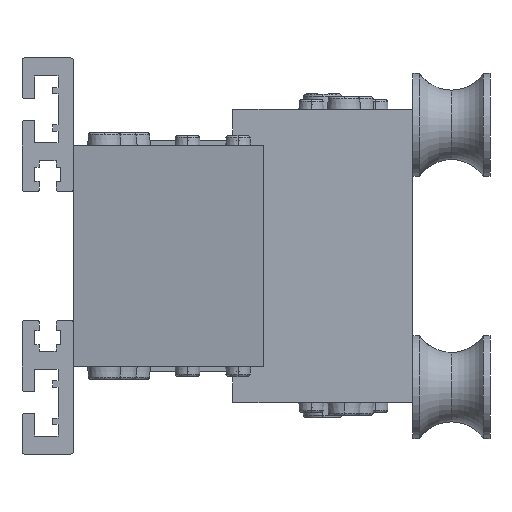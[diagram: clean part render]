
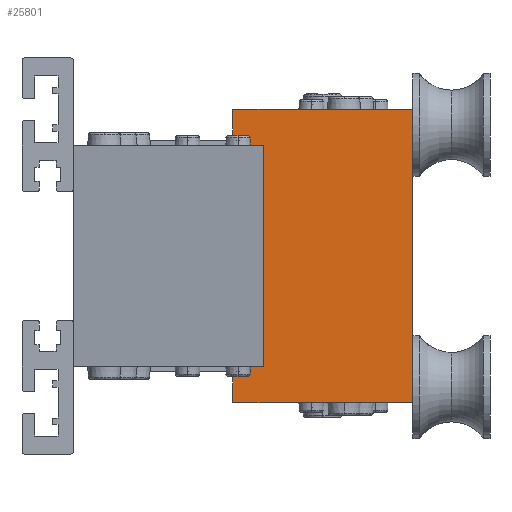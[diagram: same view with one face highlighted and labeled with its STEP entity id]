
A CAD part, left-side view. The second image highlights one B-rep face of the part: STEP entity #25801.
In plain terms, the highlighted planar face has unit normal (-1, 0, 0).
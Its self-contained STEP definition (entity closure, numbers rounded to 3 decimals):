
#170 = VERTEX_POINT ( 'NONE', #21769 ) ;
#705 = DIRECTION ( 'NONE',  ( 0., 0., 1. ) ) ;
#811 = EDGE_CURVE ( 'NONE', #4496, #170, #27254, .T. ) ;
#815 = ORIENTED_EDGE ( 'NONE', *, *, #811, .F. ) ;
#2150 = CARTESIAN_POINT ( 'NONE',  ( -222.632, -15.563, 743. ) ) ;
#2588 = CARTESIAN_POINT ( 'NONE',  ( -222.632, 54.437, 843. ) ) ;
#3593 = VECTOR ( 'NONE', #11022, 1000. ) ;
#3814 = VECTOR ( 'NONE', #16012, 1000. ) ;
#3938 = CARTESIAN_POINT ( 'NONE',  ( -222.632, 54.437, 1310.296 ) ) ;
#4060 = DIRECTION ( 'NONE',  ( 1., 0., 0. ) ) ;
#4073 = EDGE_CURVE ( 'NONE', #6712, #4496, #24916, .T. ) ;
#4402 = DIRECTION ( 'NONE',  ( 0., 0., 1. ) ) ;
#4496 = VERTEX_POINT ( 'NONE', #8059 ) ;
#5036 = VECTOR ( 'NONE', #27706, 1000. ) ;
#5133 = VECTOR ( 'NONE', #4402, 1000. ) ;
#5147 = ORIENTED_EDGE ( 'NONE', *, *, #25605, .F. ) ;
#5737 = CARTESIAN_POINT ( 'NONE',  ( -222.632, 54.437, 743. ) ) ;
#6240 = PLANE ( 'NONE',  #28777 ) ;
#6387 = CARTESIAN_POINT ( 'NONE',  ( -222.632, 54.437, 1310.296 ) ) ;
#6712 = VERTEX_POINT ( 'NONE', #5737 ) ;
#6914 = VERTEX_POINT ( 'NONE', #2150 ) ;
#6972 = EDGE_CURVE ( 'NONE', #170, #9414, #16659, .T. ) ;
#7046 = CARTESIAN_POINT ( 'NONE',  ( -222.632, -15.563, 857. ) ) ;
#7397 = ORIENTED_EDGE ( 'NONE', *, *, #13734, .F. ) ;
#7797 = CARTESIAN_POINT ( 'NONE',  ( -222.632, 19.437, 743. ) ) ;
#8059 = CARTESIAN_POINT ( 'NONE',  ( -222.632, 54.437, 757. ) ) ;
#8064 = VECTOR ( 'NONE', #705, 1000. ) ;
#8493 = CARTESIAN_POINT ( 'NONE',  ( -222.632, 54.437, 857. ) ) ;
#9414 = VERTEX_POINT ( 'NONE', #30338 ) ;
#10250 = DIRECTION ( 'NONE',  ( 0., -1., 0. ) ) ;
#10393 = CARTESIAN_POINT ( 'NONE',  ( -222.632, 54.437, 1310.296 ) ) ;
#10704 = DIRECTION ( 'NONE',  ( 0., 1., 0. ) ) ;
#11022 = DIRECTION ( 'NONE',  ( 0., 0., 1. ) ) ;
#11870 = DIRECTION ( 'NONE',  ( 0., 0., 1. ) ) ;
#13734 = EDGE_CURVE ( 'NONE', #9414, #29861, #21245, .T. ) ;
#13810 = LINE ( 'NONE', #23674, #23845 ) ;
#14658 = CARTESIAN_POINT ( 'NONE',  ( -222.632, 42.437, 1310.296 ) ) ;
#16012 = DIRECTION ( 'NONE',  ( 0., 1., 0. ) ) ;
#16250 = CARTESIAN_POINT ( 'NONE',  ( -222.632, 54.437, 843. ) ) ;
#16571 = ORIENTED_EDGE ( 'NONE', *, *, #22278, .F. ) ;
#16659 = LINE ( 'NONE', #14658, #25429 ) ;
#17508 = LINE ( 'NONE', #7797, #21712 ) ;
#18106 = ORIENTED_EDGE ( 'NONE', *, *, #25582, .T. ) ;
#18712 = ORIENTED_EDGE ( 'NONE', *, *, #4073, .F. ) ;
#20033 = VERTEX_POINT ( 'NONE', #8493 ) ;
#20250 = EDGE_LOOP ( 'NONE', ( #815, #18712, #16571, #18106, #5147, #25030, #7397, #23642 ) ) ;
#21058 = CARTESIAN_POINT ( 'NONE',  ( -222.632, -15.563, 1310.296 ) ) ;
#21245 = LINE ( 'NONE', #2588, #3814 ) ;
#21712 = VECTOR ( 'NONE', #21829, 1000. ) ;
#21769 = CARTESIAN_POINT ( 'NONE',  ( -222.632, 42.437, 757. ) ) ;
#21829 = DIRECTION ( 'NONE',  ( 0., 1., 0. ) ) ;
#22127 = LINE ( 'NONE', #10393, #8064 ) ;
#22278 = EDGE_CURVE ( 'NONE', #6914, #6712, #17508, .T. ) ;
#23035 = FACE_OUTER_BOUND ( 'NONE', #20250, .T. ) ;
#23642 = ORIENTED_EDGE ( 'NONE', *, *, #6972, .F. ) ;
#23674 = CARTESIAN_POINT ( 'NONE',  ( -222.632, 19.437, 857. ) ) ;
#23845 = VECTOR ( 'NONE', #10250, 1000. ) ;
#24916 = LINE ( 'NONE', #3938, #3593 ) ;
#25030 = ORIENTED_EDGE ( 'NONE', *, *, #25696, .F. ) ;
#25429 = VECTOR ( 'NONE', #11870, 1000. ) ;
#25525 = LINE ( 'NONE', #21058, #5133 ) ;
#25582 = EDGE_CURVE ( 'NONE', #6914, #26708, #25525, .T. ) ;
#25605 = EDGE_CURVE ( 'NONE', #20033, #26708, #13810, .T. ) ;
#25696 = EDGE_CURVE ( 'NONE', #29861, #20033, #22127, .T. ) ;
#25801 = ADVANCED_FACE ( 'NONE', ( #23035 ), #6240, .F. ) ;
#26708 = VERTEX_POINT ( 'NONE', #7046 ) ;
#27254 = LINE ( 'NONE', #30029, #5036 ) ;
#27706 = DIRECTION ( 'NONE',  ( 0., -1., 0. ) ) ;
#28777 = AXIS2_PLACEMENT_3D ( 'NONE', #6387, #4060, #10704 ) ;
#29861 = VERTEX_POINT ( 'NONE', #16250 ) ;
#30029 = CARTESIAN_POINT ( 'NONE',  ( -222.632, 54.437, 757. ) ) ;
#30338 = CARTESIAN_POINT ( 'NONE',  ( -222.632, 42.437, 843. ) ) ;
